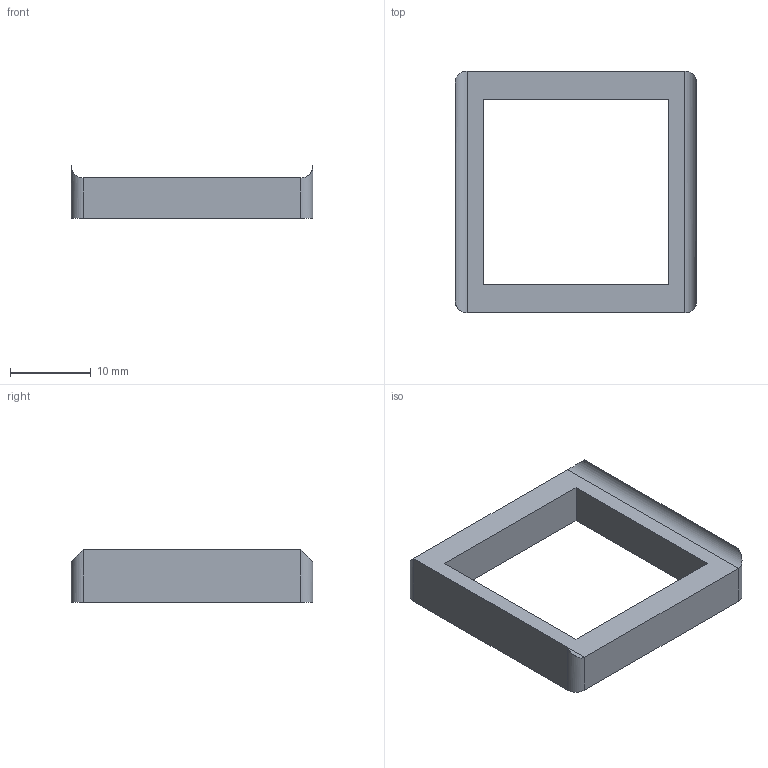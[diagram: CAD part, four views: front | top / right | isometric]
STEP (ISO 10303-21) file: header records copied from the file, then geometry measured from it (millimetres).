
FILE_DESCRIPTION (( 'STEP AP203' ), '1' );
FILE_NAME ('F030201.STEP', '2017-03-22T12:47:37', ( 'Localadmin' ), ( 'Microsoft' ), 'SwSTEP 2.0', 'SolidWorks 2016', '' );
FILE_SCHEMA (( 'CONFIG_CONTROL_DESIGN' ));
Length unit declared in the file: millimetre
Products named in the file (1): F030201
Bounding box: 30 x 30 x 6.5 mm (x, y, z)
Volume: 1873 mm3; surface area: 1919.6 mm2
Topology: 1 solids, 1 shells, 16 faces, 38 edges, 24 vertices
Faces by surface type: plane 10, cylinder 6
Entity records: 535 total; most frequent: CARTESIAN_POINT 91, ORIENTED_EDGE 76, DIRECTION 72, EDGE_CURVE 38, VECTOR 30, LINE 30, VERTEX_POINT 24, AXIS2_PLACEMENT_3D 21
